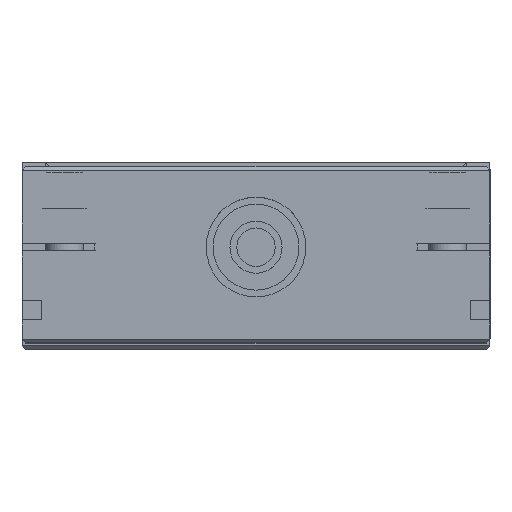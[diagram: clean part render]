
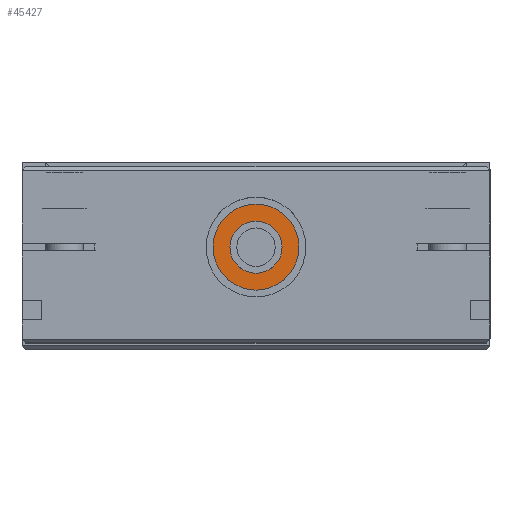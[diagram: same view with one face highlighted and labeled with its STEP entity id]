
A CAD part, top view. The second image highlights one B-rep face of the part: STEP entity #45427.
In plain terms, the highlighted planar face has unit normal (0, 0, 1) as drawn and (1, 0, 0) by its records, which use the part's own axes.
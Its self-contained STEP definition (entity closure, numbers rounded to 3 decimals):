
#1714 = FACE_OUTER_BOUND ( 'NONE', #29839, .T. ) ;
#3942 = ORIENTED_EDGE ( 'NONE', *, *, #22729, .F. ) ;
#4083 = DIRECTION ( 'NONE',  ( -1., 0., 0. ) ) ;
#4084 = ORIENTED_EDGE ( 'NONE', *, *, #39304, .F. ) ;
#4896 = DIRECTION ( 'NONE',  ( -1., 0., 0. ) ) ;
#5458 = DIRECTION ( 'NONE',  ( -1., 0., 0. ) ) ;
#6471 = VERTEX_POINT ( 'NONE', #29218 ) ;
#10124 = EDGE_LOOP ( 'NONE', ( #56891, #41305 ) ) ;
#10527 = AXIS2_PLACEMENT_3D ( 'NONE', #15437, #44106, #59053 ) ;
#10819 = EDGE_CURVE ( 'NONE', #25348, #44011, #61352, .T. ) ;
#12409 = CIRCLE ( 'NONE', #20558, 11.2 ) ;
#13655 = CARTESIAN_POINT ( 'NONE',  ( 508., 25., 0. ) ) ;
#15437 = CARTESIAN_POINT ( 'NONE',  ( 508., 25., 0. ) ) ;
#19361 = CARTESIAN_POINT ( 'NONE',  ( 508., 25., 11.2 ) ) ;
#19863 = DIRECTION ( 'NONE',  ( 0., 0., 1. ) ) ;
#20346 = AXIS2_PLACEMENT_3D ( 'NONE', #53617, #4896, #19863 ) ;
#20558 = AXIS2_PLACEMENT_3D ( 'NONE', #44947, #5458, #44320 ) ;
#22426 = CARTESIAN_POINT ( 'NONE',  ( 508., 31.8, 0. ) ) ;
#22729 = EDGE_CURVE ( 'NONE', #6471, #32333, #23991, .T. ) ;
#23991 = CIRCLE ( 'NONE', #48397, 11.2 ) ;
#25348 = VERTEX_POINT ( 'NONE', #39932 ) ;
#26906 = PLANE ( 'NONE',  #42395 ) ;
#28315 = DIRECTION ( 'NONE',  ( 0., 0., 1. ) ) ;
#29218 = CARTESIAN_POINT ( 'NONE',  ( 508., 25., -11.2 ) ) ;
#29839 = EDGE_LOOP ( 'NONE', ( #4084, #3942 ) ) ;
#31494 = CIRCLE ( 'NONE', #20346, 6.8 ) ;
#32333 = VERTEX_POINT ( 'NONE', #19361 ) ;
#39304 = EDGE_CURVE ( 'NONE', #32333, #6471, #12409, .T. ) ;
#39932 = CARTESIAN_POINT ( 'NONE',  ( 508., 25., -6.8 ) ) ;
#40586 = FACE_BOUND ( 'NONE', #10124, .T. ) ;
#41305 = ORIENTED_EDGE ( 'NONE', *, *, #10819, .T. ) ;
#42395 = AXIS2_PLACEMENT_3D ( 'NONE', #22426, #55225, #51395 ) ;
#44011 = VERTEX_POINT ( 'NONE', #61541 ) ;
#44106 = DIRECTION ( 'NONE',  ( -1., 0., 0. ) ) ;
#44320 = DIRECTION ( 'NONE',  ( 0., 0., 1. ) ) ;
#44947 = CARTESIAN_POINT ( 'NONE',  ( 508., 25., 0. ) ) ;
#45427 = ADVANCED_FACE ( 'NONE', ( #1714, #40586 ), #26906, .F. ) ;
#48397 = AXIS2_PLACEMENT_3D ( 'NONE', #13655, #4083, #28315 ) ;
#51395 = DIRECTION ( 'NONE',  ( 0., 0., 1. ) ) ;
#53617 = CARTESIAN_POINT ( 'NONE',  ( 508., 25., 0. ) ) ;
#53896 = EDGE_CURVE ( 'NONE', #44011, #25348, #31494, .T. ) ;
#55225 = DIRECTION ( 'NONE',  ( -1., 0., 0. ) ) ;
#56891 = ORIENTED_EDGE ( 'NONE', *, *, #53896, .T. ) ;
#59053 = DIRECTION ( 'NONE',  ( 0., 0., 1. ) ) ;
#61352 = CIRCLE ( 'NONE', #10527, 6.8 ) ;
#61541 = CARTESIAN_POINT ( 'NONE',  ( 508., 25., 6.8 ) ) ;
